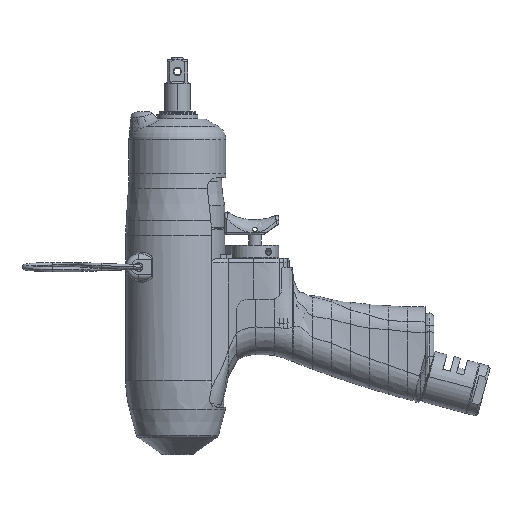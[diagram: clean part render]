
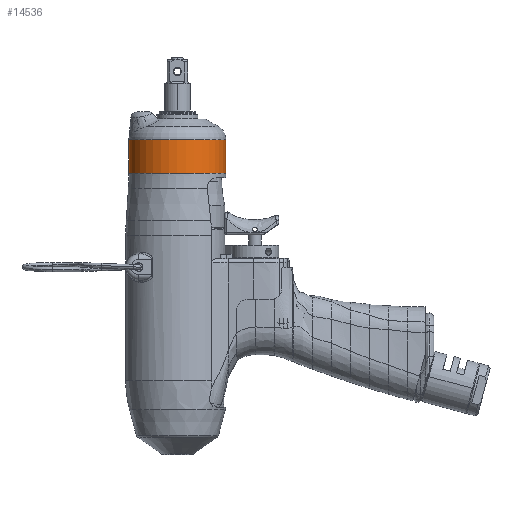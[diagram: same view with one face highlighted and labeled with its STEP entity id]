
A CAD part, left-side view. The second image highlights one B-rep face of the part: STEP entity #14536.
In plain terms, the highlighted cylindrical face has radius 22.5 mm (diameter 45 mm), a partial arc.
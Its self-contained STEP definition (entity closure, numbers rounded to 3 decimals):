
#888=CARTESIAN_POINT('',(0.,0.,25.541));
#889=DIRECTION('',(0.,0.,-1.));
#890=DIRECTION('',(0.,-1.,0.));
#891=AXIS2_PLACEMENT_3D('',#888,#889,#890);
#5433=CARTESIAN_POINT('',(0.,0.,41.185));
#5434=DIRECTION('',(0.,0.,-1.));
#5435=DIRECTION('',(0.,-1.,0.));
#5436=AXIS2_PLACEMENT_3D('',#5433,#5434,#5435);
#5443=DIRECTION('',(0.,0.,1.));
#5444=VECTOR('',#5443,15.644);
#5445=CARTESIAN_POINT('',(0.,-22.5,
25.541));
#5446=LINE('',#5445,#5444);
#5447=DIRECTION('',(0.,0.,-1.));
#5448=VECTOR('',#5447,15.644);
#5449=CARTESIAN_POINT('',(0.,22.5,41.185));
#5450=LINE('',#5449,#5448);
#6219=CARTESIAN_POINT('',(0.,22.5,41.185));
#6220=VERTEX_POINT('',#6219);
#6221=CARTESIAN_POINT('',(0.,-22.5,41.185));
#6222=VERTEX_POINT('',#6221);
#6228=CARTESIAN_POINT('',(0.,-22.5,
25.541));
#6229=CARTESIAN_POINT('',(0.,22.5,25.541));
#6230=VERTEX_POINT('',#6228);
#6231=VERTEX_POINT('',#6229);
#14523=CARTESIAN_POINT('',(0.,0.,25.228));
#14524=DIRECTION('',(0.,0.,1.));
#14525=DIRECTION('',(0.,1.,0.));
#14526=AXIS2_PLACEMENT_3D('',#14523,#14524,#14525);
#14527=CYLINDRICAL_SURFACE('',#14526,22.5);
#14528=ORIENTED_EDGE('',*,*,#7135,.T.);
#14530=ORIENTED_EDGE('',*,*,#14529,.F.);
#14531=ORIENTED_EDGE('',*,*,#14517,.F.);
#14533=ORIENTED_EDGE('',*,*,#14532,.F.);
#14534=EDGE_LOOP('',(#14528,#14530,#14531,#14533));
#14535=FACE_OUTER_BOUND('',#14534,.F.);
#14536=ADVANCED_FACE('',(#14535),#14527,.T.);
#892=CIRCLE('',#891,22.5);
#5437=CIRCLE('',#5436,22.5);
#7135=EDGE_CURVE('',#6230,#6231,#892,.T.);
#14517=EDGE_CURVE('',#6222,#6220,#5437,.T.);
#14529=EDGE_CURVE('',#6220,#6231,#5450,.T.);
#14532=EDGE_CURVE('',#6230,#6222,#5446,.T.);
